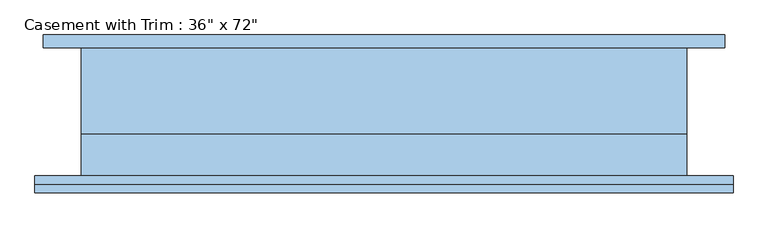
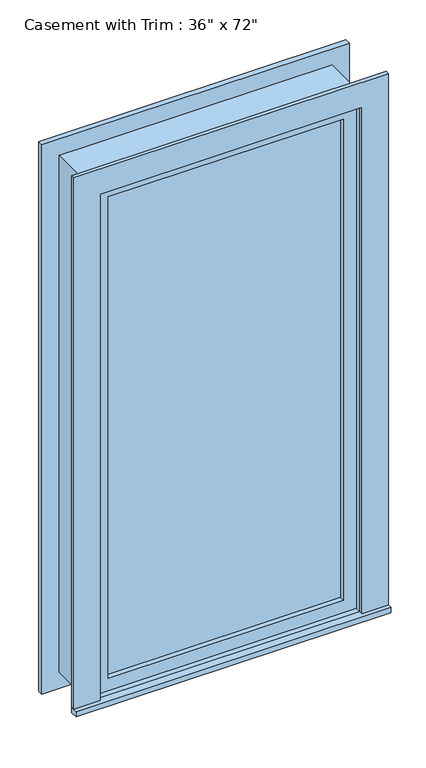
"""IFC4 building model written with IfcOpenShell, lengths in millimetres: window geometry."""

from ifc_helpers import new_model, si_unit, frame, origin, place, context, project, spatial, polyline, outline, extrude, source, transform, mapped, element, save


def window_eea7dd42(model_context):
    return source(origin(), model_context, "Body", "SweptSolid", [
        extrude(outline(polyline([(-527.05, -122.2375), (-527.05, -96.8375), (527.05, -96.8375), (527.05, -122.2375), (-527.05, -122.2375)])), frame((0.0, 0.0, 304.8), z_axis=(0.0, 0.0, 1.0), x_axis=(1.0, 0.0, 0.0)), (0.0, 0.0, 1.0), 19.05),
        extrude(outline(polyline([(2114.55, -438.15), (2114.55, 438.15), (323.85, 438.15), (323.85, 527.05), (2203.45, 527.05), (2203.45, -527.05), (323.85, -527.05), (323.85, -438.15), (2114.55, -438.15)])), frame((0.0, -109.5375, 0.0), z_axis=(0.0, 1.0, 0.0), x_axis=(0.0, 0.0, 1.0)), (0.0, 0.0, 1.0), 12.7),
        extrude(outline(polyline([(2190.75, 514.35), (2190.75, -514.35), (247.65, -514.35), (247.65, 514.35), (2190.75, 514.35)]), holes=[polyline([(2101.85, 425.45), (336.55, 425.45), (336.55, -425.45), (2101.85, -425.45), (2101.85, 425.45)])]), frame((0.0, 96.8375, 0.0), z_axis=(0.0, 1.0, 0.0), x_axis=(0.0, 0.0, 1.0)), (0.0, 0.0, 1.0), 19.05),
        extrude(outline(polyline([(393.7, -49.2125), (393.7, -61.9125), (-393.7, -61.9125), (-393.7, -49.2125), (393.7, -49.2125)])), frame((0.0, 0.0, 368.3), z_axis=(0.0, 0.0, 1.0), x_axis=(1.0, 0.0, 0.0)), (0.0, 0.0, 1.0), 1701.8),
        extrude(outline(polyline([(2114.55, -438.15), (323.85, -438.15), (323.85, 438.15), (2114.55, 438.15), (2114.55, -438.15)]), holes=[polyline([(2070.1, -393.7), (2070.1, 393.7), (368.3, 393.7), (368.3, -393.7), (2070.1, -393.7)])]), frame((0.0, -77.7875, 0.0), z_axis=(0.0, 1.0, 0.0), x_axis=(0.0, 0.0, 1.0)), (0.0, 0.0, 1.0), 44.45),
        extrude(outline(polyline([(2133.6, -457.2), (304.8, -457.2), (304.8, 457.2), (2133.6, 457.2), (2133.6, -457.2)]), holes=[polyline([(2101.85, -425.45), (2101.85, 425.45), (336.55, 425.45), (336.55, -425.45), (2101.85, -425.45)])]), frame((0.0, -33.3375, 0.0), z_axis=(0.0, 1.0, 0.0), x_axis=(0.0, 0.0, 1.0)), (0.0, 0.0, 1.0), 130.175),
        extrude(outline(polyline([(2133.6, 457.2), (2133.6, -457.2), (304.8, -457.2), (304.8, 457.2), (2133.6, 457.2)]), holes=[polyline([(2114.55, 438.15), (323.85, 438.15), (323.85, -438.15), (2114.55, -438.15), (2114.55, 438.15)])]), frame((0.0, -96.8375, 0.0), z_axis=(0.0, 1.0, 0.0), x_axis=(0.0, 0.0, 1.0)), (0.0, 0.0, 1.0), 63.5),
    ])


if __name__ == "__main__":
    model = new_model("IFC4")
    model_context = context("Model", 3, world=origin())
    ifc_project = project(units=[si_unit("LENGTHUNIT", "METRE", prefix="MILLI")], contexts=[model_context])
    site = spatial("IfcSite", under=ifc_project)
    building = spatial("IfcBuilding", under=site)
    placement = place(None, origin())
    window_shape = window_eea7dd42(model_context)
    element("IfcWindow", 1, ObjectType="Casement with Trim : 36\" x 72\"", at=placement, inside=building, context=model_context, shape_type="MappedRepresentation", body=[
        mapped(window_shape, transform((0.0, 0.0, 0.0), x_axis=(1.0, 0.0, 0.0), y_axis=(0.0, 1.0, 0.0), z_axis=(0.0, 0.0, 1.0))),
    ])
    save(model, "model.ifc")
